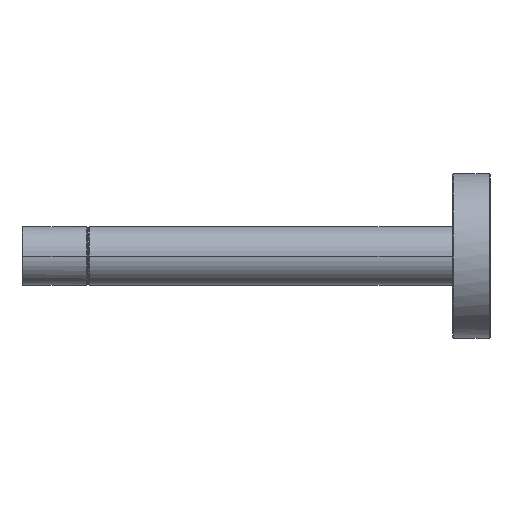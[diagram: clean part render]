
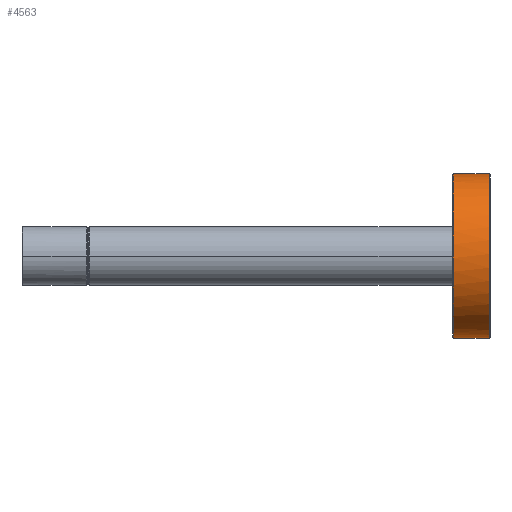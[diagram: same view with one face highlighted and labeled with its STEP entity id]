
A CAD part, left-side view. The second image highlights one B-rep face of the part: STEP entity #4563.
In plain terms, the highlighted cylindrical face has radius 26.5 mm (diameter 53 mm), a partial arc.
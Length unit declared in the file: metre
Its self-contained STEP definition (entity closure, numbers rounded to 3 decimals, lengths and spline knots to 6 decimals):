
#401=VERTEX_POINT('',#402);
#402=CARTESIAN_POINT('',(-0.1735,0.0002,-0.0265));
#409=VERTEX_POINT('',#410);
#410=CARTESIAN_POINT('',(-0.1735,0.0002,0.0265));
#443=VERTEX_POINT('',#444);
#444=CARTESIAN_POINT('',(-0.1735,0.0118,-0.0265));
#449=CARTESIAN_POINT('',(-0.1735,0.0118,0.0265));
#451=EDGE_CURVE('',#452,#443,#454,.T.);
#452=VERTEX_POINT('',#453);
#453=CARTESIAN_POINT('',(-0.1735,0.0118,0.0265));
#454=(B_SPLINE_CURVE(3,(#449,#455,#456,#457),.UNSPECIFIED.,.F.,.U.)B_SPLINE_CURVE_WITH_KNOTS(
  (4,4),(0.0,1.0),.UNSPECIFIED.)BOUNDED_CURVE()CURVE()GEOMETRIC_REPRESENTATION_ITEM(
  )RATIONAL_B_SPLINE_CURVE((1.0,0.333,0.333,1.0)
  )REPRESENTATION_ITEM(''));
#455=CARTESIAN_POINT('',(-0.2265,0.0118,0.0265));
#456=CARTESIAN_POINT('',(-0.2265,0.0118,-0.0265));
#457=CARTESIAN_POINT('',(-0.1735,0.0118,-0.0265));
#507=CYLINDRICAL_SURFACE('',#508,0.0265);
#508=AXIS2_PLACEMENT_3D('',#509,#510,#511);
#509=CARTESIAN_POINT('',(-0.1735,0.011,0.0));
#510=DIRECTION('',(0.0,1.0,0.0));
#511=DIRECTION('',(0.0,0.0,1.0));
#516=EDGE_CURVE('',#401,#443,#517,.T.);
#517=LINE('',#518,#519);
#518=CARTESIAN_POINT('',(-0.1735,0.011,-0.0265));
#519=VECTOR('',#520,1.0);
#520=DIRECTION('',(0.0,1.0,0.0));
#529=EDGE_CURVE('',#409,#452,#530,.T.);
#530=LINE('',#531,#532);
#531=CARTESIAN_POINT('',(-0.1735,0.012,0.0265));
#532=VECTOR('',#533,1.0);
#533=DIRECTION('',(0.0,1.0,0.0));
#4561=FACE_OUTER_BOUND('',#4564,.T.);
#4563=ADVANCED_FACE('',(#4561),#507,.T.);
#4564=EDGE_LOOP('',(#4565,#4566,#4573,#4574));
#4565=ORIENTED_EDGE('',*,*,#516,.F.);
#4566=ORIENTED_EDGE('',*,*,#4568,.T.);
#4567=CARTESIAN_POINT('',(-0.1735,0.0002,-0.0265));
#4568=EDGE_CURVE('',#401,#409,#4569,.T.);
#4569=(B_SPLINE_CURVE(3,(#4567,#4570,#4571,#4572),.UNSPECIFIED.,.F.,.U.)B_SPLINE_CURVE_WITH_KNOTS(
  (4,4),(0.0,1.0),.UNSPECIFIED.)BOUNDED_CURVE()CURVE()GEOMETRIC_REPRESENTATION_ITEM(
  )RATIONAL_B_SPLINE_CURVE((1.0,0.333,0.333,1.0)
  )REPRESENTATION_ITEM(''));
#4570=CARTESIAN_POINT('',(-0.2265,0.0002,-0.0265));
#4571=CARTESIAN_POINT('',(-0.2265,0.0002,0.0265));
#4572=CARTESIAN_POINT('',(-0.1735,0.0002,0.0265));
#4573=ORIENTED_EDGE('',*,*,#529,.T.);
#4574=ORIENTED_EDGE('',*,*,#451,.T.);
